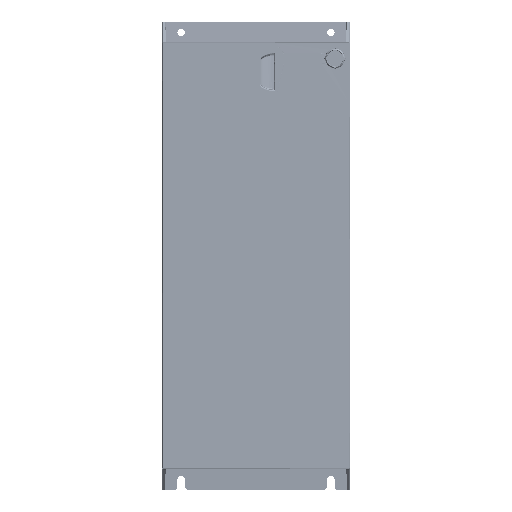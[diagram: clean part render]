
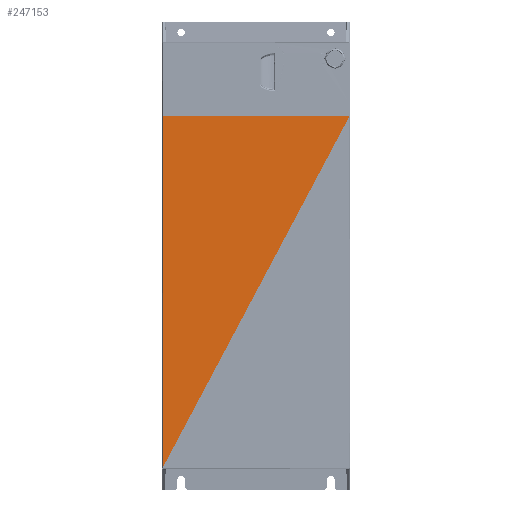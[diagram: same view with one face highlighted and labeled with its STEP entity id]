
A CAD part, top view. The second image highlights one B-rep face of the part: STEP entity #247153.
In plain terms, the highlighted planar face has unit normal (0, 0, 1).
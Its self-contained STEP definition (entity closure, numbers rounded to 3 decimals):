
#79501=DIRECTION('',(-1.,0.,0.));
#79502=VECTOR('',#79501,69.);
#79503=CARTESIAN_POINT('',(73.,133.85,190.));
#79504=LINE('',#79503,#79502);
#79525=DIRECTION('',(-1.,0.,0.));
#79526=VECTOR('',#79525,69.);
#79527=CARTESIAN_POINT('',(-4.,133.85,190.));
#79528=LINE('',#79527,#79526);
#79561=DIRECTION('',(-1.,0.,0.));
#79562=VECTOR('',#79561,8.5);
#79563=CARTESIAN_POINT('',(-81.,133.85,190.));
#79564=LINE('',#79563,#79562);
#79569=CARTESIAN_POINT('',(-89.5,133.85,190.));
#79597=DIRECTION('',(-1.,0.,0.));
#79598=VECTOR('',#79597,8.5);
#79599=CARTESIAN_POINT('',(89.5,133.85,190.));
#79600=LINE('',#79599,#79598);
#83593=DIRECTION('',(-0.469,-0.883,0.));
#83594=VECTOR('',#83593,381.56);
#83595=CARTESIAN_POINT('',(89.5,133.442,190.));
#83596=LINE('',#83595,#83594);
#83597=DIRECTION('',(0.,-1.,0.));
#83598=VECTOR('',#83597,337.376);
#83599=CARTESIAN_POINT('',(-89.5,133.85,190.));
#83600=LINE('',#83599,#83598);
#83601=DIRECTION('',(-1.,0.,0.));
#83602=VECTOR('',#83601,8.);
#83603=CARTESIAN_POINT('',(-73.,133.85,190.));
#83604=LINE('',#83603,#83602);
#83605=DIRECTION('',(-1.,0.,0.));
#83606=VECTOR('',#83605,8.);
#83607=CARTESIAN_POINT('',(4.,133.85,190.));
#83608=LINE('',#83607,#83606);
#83609=DIRECTION('',(-1.,0.,0.));
#83610=VECTOR('',#83609,8.);
#83611=CARTESIAN_POINT('',(81.,133.85,190.));
#83612=LINE('',#83611,#83610);
#83613=DIRECTION('',(0.,1.,0.));
#83614=VECTOR('',#83613,0.408);
#83615=CARTESIAN_POINT('',(89.5,133.442,190.));
#83616=LINE('',#83615,#83614);
#133945=CARTESIAN_POINT('',(81.,133.85,190.));
#133946=CARTESIAN_POINT('',(73.,133.85,190.));
#133947=VERTEX_POINT('',#133945);
#133948=VERTEX_POINT('',#133946);
#133949=CARTESIAN_POINT('',(4.,133.85,190.));
#133950=CARTESIAN_POINT('',(-4.,133.85,190.));
#133951=VERTEX_POINT('',#133949);
#133952=VERTEX_POINT('',#133950);
#133953=CARTESIAN_POINT('',(-73.,133.85,190.));
#133954=CARTESIAN_POINT('',(-81.,133.85,190.));
#133955=VERTEX_POINT('',#133953);
#133956=VERTEX_POINT('',#133954);
#133957=CARTESIAN_POINT('',(89.5,133.442,190.));
#133958=CARTESIAN_POINT('',(-89.5,-203.526,190.));
#133959=VERTEX_POINT('',#133957);
#133960=VERTEX_POINT('',#133958);
#134240=VERTEX_POINT('',#79569);
#134241=CARTESIAN_POINT('',(89.5,133.85,190.));
#134242=VERTEX_POINT('',#134241);
#247131=CARTESIAN_POINT('',(0.,0.,190.));
#247132=DIRECTION('',(0.,0.,1.));
#247133=DIRECTION('',(1.,0.,0.));
#247134=AXIS2_PLACEMENT_3D('',#247131,#247132,#247133);
#247135=PLANE('',#247134);
#247137=ORIENTED_EDGE('',*,*,#247136,.T.);
#247138=ORIENTED_EDGE('',*,*,#247048,.F.);
#247139=ORIENTED_EDGE('',*,*,#241685,.F.);
#247141=ORIENTED_EDGE('',*,*,#247140,.F.);
#247142=ORIENTED_EDGE('',*,*,#241651,.F.);
#247144=ORIENTED_EDGE('',*,*,#247143,.F.);
#247145=ORIENTED_EDGE('',*,*,#241627,.F.);
#247147=ORIENTED_EDGE('',*,*,#247146,.F.);
#247148=ORIENTED_EDGE('',*,*,#241711,.F.);
#247150=ORIENTED_EDGE('',*,*,#247149,.F.);
#247151=EDGE_LOOP('',(#247137,#247138,#247139,#247141,#247142,#247144,#247145,
#247147,#247148,#247150));
#247152=FACE_OUTER_BOUND('',#247151,.F.);
#247153=ADVANCED_FACE('',(#247152),#247135,.T.);
#241627=EDGE_CURVE('',#133948,#133951,#79504,.T.);
#241651=EDGE_CURVE('',#133952,#133955,#79528,.T.);
#241685=EDGE_CURVE('',#133956,#134240,#79564,.T.);
#241711=EDGE_CURVE('',#134242,#133947,#79600,.T.);
#247048=EDGE_CURVE('',#134240,#133960,#83600,.T.);
#247136=EDGE_CURVE('',#133959,#133960,#83596,.T.);
#247140=EDGE_CURVE('',#133955,#133956,#83604,.T.);
#247143=EDGE_CURVE('',#133951,#133952,#83608,.T.);
#247146=EDGE_CURVE('',#133947,#133948,#83612,.T.);
#247149=EDGE_CURVE('',#133959,#134242,#83616,.T.);
